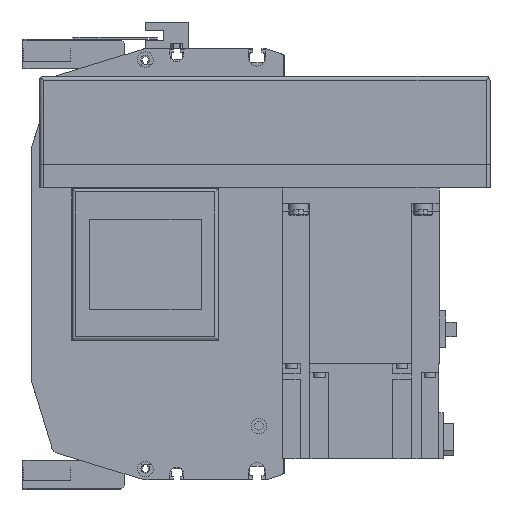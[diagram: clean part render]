
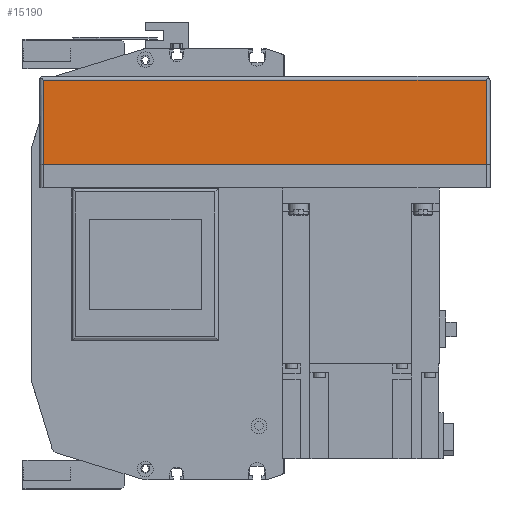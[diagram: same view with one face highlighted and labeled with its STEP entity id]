
A CAD part, left-side view. The second image highlights one B-rep face of the part: STEP entity #15190.
In plain terms, the highlighted planar face has unit normal (-1, 0, 0) as drawn and (0, -1, 0) by its records, which use the part's own axes.
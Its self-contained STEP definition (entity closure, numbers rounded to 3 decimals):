
#2459=ORIENTED_EDGE('',*,*,#6114,.F.);
#2460=ORIENTED_EDGE('',*,*,#6117,.T.);
#2461=ORIENTED_EDGE('',*,*,#6118,.T.);
#2462=ORIENTED_EDGE('',*,*,#6119,.F.);
#6114=EDGE_CURVE('',#8069,#8070,#9645,.T.);
#6117=EDGE_CURVE('',#8069,#8072,#9647,.T.);
#6118=EDGE_CURVE('',#8072,#8073,#9648,.T.);
#6119=EDGE_CURVE('',#8070,#8073,#9649,.T.);
#8069=VERTEX_POINT('',#23679);
#8070=VERTEX_POINT('',#23681);
#8072=VERTEX_POINT('',#23687);
#8073=VERTEX_POINT('',#23689);
#9645=LINE('',#23680,#11000);
#9647=LINE('',#23686,#11002);
#9648=LINE('',#23688,#11003);
#9649=LINE('',#23690,#11004);
#11000=VECTOR('',#18892,1000.);
#11002=VECTOR('',#18898,1000.);
#11003=VECTOR('',#18899,1000.);
#11004=VECTOR('',#18900,1000.);
#12180=EDGE_LOOP('',(#2459,#2460,#2461,#2462));
#13439=FACE_BOUND('',#12180,.T.);
#14554=PLANE('',#16290);
#15190=ADVANCED_FACE('',(#13439),#14554,.T.);
#16290=AXIS2_PLACEMENT_3D('',#23685,#18896,#18897);
#18892=DIRECTION('',(0.,0.,1.));
#18896=DIRECTION('',(0.,-1.,0.));
#18897=DIRECTION('',(0.,0.,-1.));
#18898=DIRECTION('',(1.,0.,0.));
#18899=DIRECTION('',(0.,0.,1.));
#18900=DIRECTION('',(1.,0.,0.));
#23679=CARTESIAN_POINT('',(-228.,-54.,-55.));
#23680=CARTESIAN_POINT('',(-228.,-54.,-57.));
#23681=CARTESIAN_POINT('',(-228.,-54.,-12.));
#23685=CARTESIAN_POINT('',(-228.,-54.,-57.));
#23686=CARTESIAN_POINT('',(-230.,-54.,-55.));
#23687=CARTESIAN_POINT('',(-2.,-54.,-55.));
#23688=CARTESIAN_POINT('',(-2.,-54.,-57.));
#23689=CARTESIAN_POINT('',(-2.,-54.,-12.));
#23690=CARTESIAN_POINT('',(-228.,-54.,-12.));
